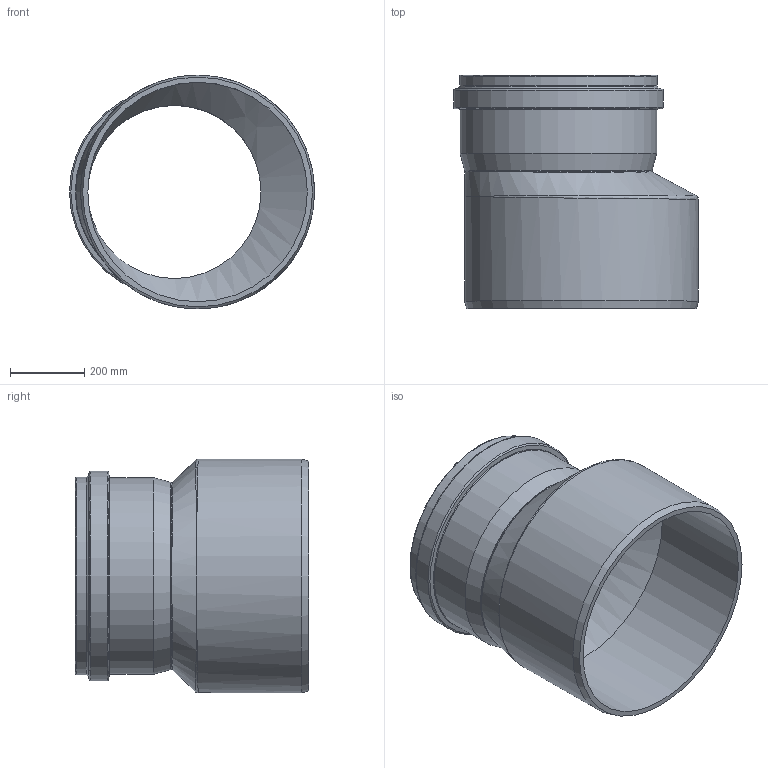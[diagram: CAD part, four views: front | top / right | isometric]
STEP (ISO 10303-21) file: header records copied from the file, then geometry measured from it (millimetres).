
FILE_DESCRIPTION(/* description */ (''),/* implementation_level */ '2;1');
FILE_NAME(/* name */ '771295z.stp',/* time_stamp */ '2026-02-12T11:26:00+01:00',/* author */ ('corinna'),/* organization */ (''),/* preprocessor_version */ 'ST-DEVELOPER v20',/* originating_system */ 'Autodesk Inventor 2024',/* authorisation */ '');
FILE_SCHEMA (('AUTOMOTIVE_DESIGN { 1 0 10303 214 3 1 1 }'));
Length unit declared in the file: millimetre
Products named in the file (1): 771295z
Bounding box: 660 x 628 x 630 mm (x, y, z)
Volume: 21281000.8 mm3; surface area: 2469083.6 mm2
Topology: 1 solids, 1 shells, 42 faces, 115 edges, 72 vertices
Faces by surface type: torus 14, cylinder 11, cone 10, bspline 4, plane 3
Full cylindrical faces by diameter (mm): 466.4 x1, 502 x1, 503 x1, 504.5 x1, 505 x1, 530 x1, 532.5 x1, 535 x1, 565 x1, 591.4 x1, 630 x1
Entity records: 2620 total; most frequent: CARTESIAN_POINT 1480, DIRECTION 263, ORIENTED_EDGE 222, AXIS2_PLACEMENT_3D 121, EDGE_CURVE 111, CIRCLE 82, VERTEX_POINT 72, EDGE_LOOP 45
